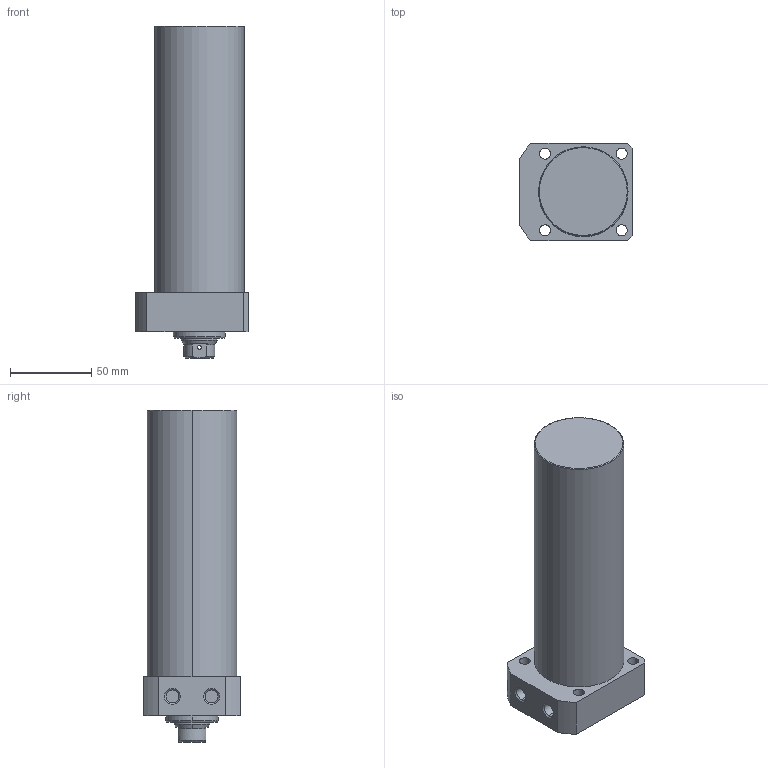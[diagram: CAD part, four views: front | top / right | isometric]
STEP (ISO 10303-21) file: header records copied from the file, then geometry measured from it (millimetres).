
FILE_DESCRIPTION (( 'STEP AP203' ), '1' );
FILE_NAME ('CLLR-055CB-135.STEP', '2019-12-17T11:58:51', ( '' ), ( '' ), 'SwSTEP 2.0', 'SolidWorks 2015', '' );
FILE_SCHEMA (( 'CONFIG_CONTROL_DESIGN' ));
Length unit declared in the file: millimetre
Products named in the file (1): CLLR-055CB-135
Bounding box: 69 x 60 x 204 mm (x, y, z)
Volume: 487221.3 mm3; surface area: 46672.6 mm2
Topology: 1 solids, 1 shells, 69 faces, 162 edges, 101 vertices
Faces by surface type: cylinder 33, plane 19, cone 15, torus 2
Entity records: 2175 total; most frequent: CARTESIAN_POINT 451, DIRECTION 368, ORIENTED_EDGE 320, EDGE_CURVE 160, AXIS2_PLACEMENT_3D 150, VERTEX_POINT 101, EDGE_LOOP 89, CIRCLE 80
